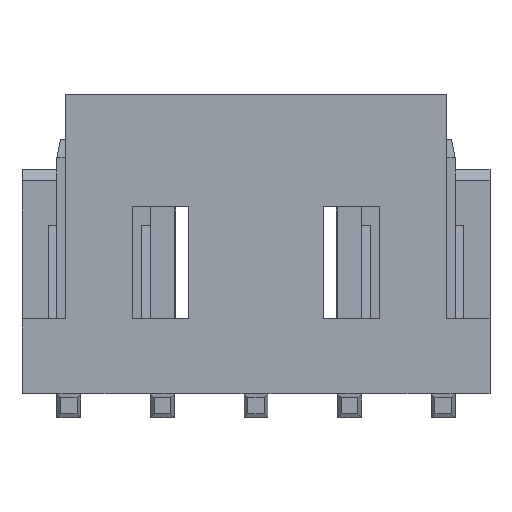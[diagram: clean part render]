
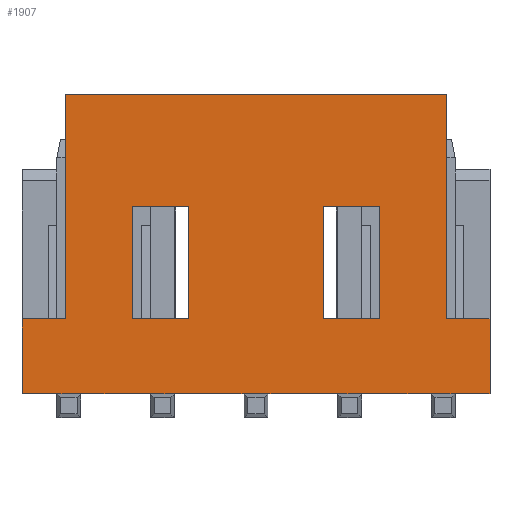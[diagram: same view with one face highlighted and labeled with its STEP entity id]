
A CAD part, front view. The second image highlights one B-rep face of the part: STEP entity #1907.
In plain terms, the highlighted planar face has unit normal (0, -1, 0).
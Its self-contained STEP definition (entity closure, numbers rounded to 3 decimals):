
#137=CARTESIAN_POINT('Line Origine',(-5.,0.,0.)) ;
#141=CARTESIAN_POINT('Vertex',(-5.32,0.,0.)) ;
#143=CARTESIAN_POINT('Vertex',(-4.68,0.,0.)) ;
#617=CARTESIAN_POINT('Vertex',(6.25,0.,2.)) ;
#620=CARTESIAN_POINT('Line Origine',(6.25,0.,1.)) ;
#624=CARTESIAN_POINT('Vertex',(6.25,0.,0.)) ;
#1229=CARTESIAN_POINT('Vertex',(-6.25,0.,0.)) ;
#1232=CARTESIAN_POINT('Line Origine',(-6.25,0.,1.)) ;
#1236=CARTESIAN_POINT('Vertex',(-6.25,0.,2.)) ;
#1707=CARTESIAN_POINT('Vertex',(5.1,0.,2.)) ;
#1710=CARTESIAN_POINT('Line Origine',(5.675,0.,2.)) ;
#1722=CARTESIAN_POINT('Axis2P3D Location',(0.,0.,8.)) ;
#1727=CARTESIAN_POINT('Line Origine',(-5.785,0.,0.)) ;
#1732=CARTESIAN_POINT('Line Origine',(-3.75,0.,0.)) ;
#1736=CARTESIAN_POINT('Vertex',(-2.82,0.,0.)) ;
#1739=CARTESIAN_POINT('Line Origine',(-2.5,0.,0.)) ;
#1743=CARTESIAN_POINT('Vertex',(-2.18,0.,0.)) ;
#1746=CARTESIAN_POINT('Line Origine',(-1.25,0.,0.)) ;
#1750=CARTESIAN_POINT('Vertex',(-0.32,0.,0.)) ;
#1753=CARTESIAN_POINT('Line Origine',(0.,0.,0.)) ;
#1757=CARTESIAN_POINT('Vertex',(0.32,0.,0.)) ;
#1760=CARTESIAN_POINT('Line Origine',(1.25,0.,0.)) ;
#1764=CARTESIAN_POINT('Vertex',(2.18,0.,0.)) ;
#1767=CARTESIAN_POINT('Line Origine',(2.5,0.,0.)) ;
#1771=CARTESIAN_POINT('Vertex',(2.82,0.,0.)) ;
#1774=CARTESIAN_POINT('Line Origine',(3.75,0.,0.)) ;
#1778=CARTESIAN_POINT('Vertex',(4.68,0.,0.)) ;
#1781=CARTESIAN_POINT('Line Origine',(5.,0.,0.)) ;
#1785=CARTESIAN_POINT('Vertex',(5.32,0.,0.)) ;
#1788=CARTESIAN_POINT('Line Origine',(5.785,0.,0.)) ;
#1793=CARTESIAN_POINT('Line Origine',(5.1,0.,5.)) ;
#1797=CARTESIAN_POINT('Vertex',(5.1,0.,8.)) ;
#1800=CARTESIAN_POINT('Line Origine',(0.,0.,8.)) ;
#1804=CARTESIAN_POINT('Vertex',(-5.1,0.,8.)) ;
#1807=CARTESIAN_POINT('Line Origine',(-5.1,0.,5.)) ;
#1811=CARTESIAN_POINT('Vertex',(-5.1,0.,2.)) ;
#1814=CARTESIAN_POINT('Line Origine',(-5.675,0.,2.)) ;
#1839=CARTESIAN_POINT('Line Origine',(-1.8,0.,3.5)) ;
#1843=CARTESIAN_POINT('Vertex',(-1.8,0.,2.)) ;
#1845=CARTESIAN_POINT('Vertex',(-1.8,0.,5.)) ;
#1848=CARTESIAN_POINT('Line Origine',(-2.55,0.,2.)) ;
#1852=CARTESIAN_POINT('Vertex',(-3.3,0.,2.)) ;
#1855=CARTESIAN_POINT('Line Origine',(-3.3,0.,3.5)) ;
#1859=CARTESIAN_POINT('Vertex',(-3.3,0.,5.)) ;
#1862=CARTESIAN_POINT('Line Origine',(-2.55,0.,5.)) ;
#1873=CARTESIAN_POINT('Line Origine',(2.55,0.,2.)) ;
#1877=CARTESIAN_POINT('Vertex',(1.8,0.,2.)) ;
#1879=CARTESIAN_POINT('Vertex',(3.3,0.,2.)) ;
#1882=CARTESIAN_POINT('Line Origine',(1.8,0.,3.5)) ;
#1886=CARTESIAN_POINT('Vertex',(1.8,0.,5.)) ;
#1889=CARTESIAN_POINT('Line Origine',(2.55,0.,5.)) ;
#1893=CARTESIAN_POINT('Vertex',(3.3,0.,5.)) ;
#1896=CARTESIAN_POINT('Line Origine',(3.3,0.,3.5)) ;
#138=DIRECTION('Vector Direction',(1.,0.,0.)) ;
#621=DIRECTION('Vector Direction',(0.,0.,-1.)) ;
#1233=DIRECTION('Vector Direction',(0.,0.,-1.)) ;
#1711=DIRECTION('Vector Direction',(1.,0.,0.)) ;
#1723=DIRECTION('Axis2P3D Direction',(0.,-1.,0.)) ;
#1724=DIRECTION('Axis2P3D XDirection',(0.,0.,-1.)) ;
#1728=DIRECTION('Vector Direction',(1.,0.,0.)) ;
#1733=DIRECTION('Vector Direction',(1.,0.,0.)) ;
#1740=DIRECTION('Vector Direction',(1.,0.,0.)) ;
#1747=DIRECTION('Vector Direction',(1.,0.,0.)) ;
#1754=DIRECTION('Vector Direction',(1.,0.,0.)) ;
#1761=DIRECTION('Vector Direction',(1.,0.,0.)) ;
#1768=DIRECTION('Vector Direction',(1.,0.,0.)) ;
#1775=DIRECTION('Vector Direction',(1.,0.,0.)) ;
#1782=DIRECTION('Vector Direction',(1.,0.,0.)) ;
#1789=DIRECTION('Vector Direction',(1.,0.,0.)) ;
#1794=DIRECTION('Vector Direction',(0.,0.,1.)) ;
#1801=DIRECTION('Vector Direction',(1.,0.,0.)) ;
#1808=DIRECTION('Vector Direction',(0.,0.,1.)) ;
#1815=DIRECTION('Vector Direction',(-1.,0.,0.)) ;
#1840=DIRECTION('Vector Direction',(0.,0.,1.)) ;
#1849=DIRECTION('Vector Direction',(-1.,0.,0.)) ;
#1856=DIRECTION('Vector Direction',(0.,0.,-1.)) ;
#1863=DIRECTION('Vector Direction',(1.,0.,0.)) ;
#1874=DIRECTION('Vector Direction',(1.,0.,0.)) ;
#1883=DIRECTION('Vector Direction',(0.,0.,1.)) ;
#1890=DIRECTION('Vector Direction',(-1.,0.,0.)) ;
#1897=DIRECTION('Vector Direction',(0.,0.,-1.)) ;
#1725=AXIS2_PLACEMENT_3D('Plane Axis2P3D',#1722,#1723,#1724) ;
#1820=ORIENTED_EDGE('',*,*,#1238,.T.) ;
#1821=ORIENTED_EDGE('',*,*,#1731,.T.) ;
#1822=ORIENTED_EDGE('',*,*,#145,.T.) ;
#1823=ORIENTED_EDGE('',*,*,#1738,.T.) ;
#1824=ORIENTED_EDGE('',*,*,#1745,.T.) ;
#1825=ORIENTED_EDGE('',*,*,#1752,.T.) ;
#1826=ORIENTED_EDGE('',*,*,#1759,.T.) ;
#1827=ORIENTED_EDGE('',*,*,#1766,.T.) ;
#1828=ORIENTED_EDGE('',*,*,#1773,.T.) ;
#1829=ORIENTED_EDGE('',*,*,#1780,.T.) ;
#1830=ORIENTED_EDGE('',*,*,#1787,.T.) ;
#1831=ORIENTED_EDGE('',*,*,#1792,.T.) ;
#1832=ORIENTED_EDGE('',*,*,#626,.F.) ;
#1833=ORIENTED_EDGE('',*,*,#1714,.F.) ;
#1834=ORIENTED_EDGE('',*,*,#1799,.T.) ;
#1835=ORIENTED_EDGE('',*,*,#1806,.F.) ;
#1836=ORIENTED_EDGE('',*,*,#1813,.F.) ;
#1837=ORIENTED_EDGE('',*,*,#1818,.F.) ;
#1868=ORIENTED_EDGE('',*,*,#1847,.F.) ;
#1869=ORIENTED_EDGE('',*,*,#1854,.F.) ;
#1870=ORIENTED_EDGE('',*,*,#1861,.F.) ;
#1871=ORIENTED_EDGE('',*,*,#1866,.F.) ;
#1902=ORIENTED_EDGE('',*,*,#1881,.F.) ;
#1903=ORIENTED_EDGE('',*,*,#1888,.F.) ;
#1904=ORIENTED_EDGE('',*,*,#1895,.F.) ;
#1905=ORIENTED_EDGE('',*,*,#1900,.F.) ;
#1872=FACE_BOUND('',#1867,.T.) ;
#1906=FACE_BOUND('',#1901,.T.) ;
#139=VECTOR('Line Direction',#138,1.) ;
#622=VECTOR('Line Direction',#621,1.) ;
#1234=VECTOR('Line Direction',#1233,1.) ;
#1712=VECTOR('Line Direction',#1711,1.) ;
#1729=VECTOR('Line Direction',#1728,1.) ;
#1734=VECTOR('Line Direction',#1733,1.) ;
#1741=VECTOR('Line Direction',#1740,1.) ;
#1748=VECTOR('Line Direction',#1747,1.) ;
#1755=VECTOR('Line Direction',#1754,1.) ;
#1762=VECTOR('Line Direction',#1761,1.) ;
#1769=VECTOR('Line Direction',#1768,1.) ;
#1776=VECTOR('Line Direction',#1775,1.) ;
#1783=VECTOR('Line Direction',#1782,1.) ;
#1790=VECTOR('Line Direction',#1789,1.) ;
#1795=VECTOR('Line Direction',#1794,1.) ;
#1802=VECTOR('Line Direction',#1801,1.) ;
#1809=VECTOR('Line Direction',#1808,1.) ;
#1816=VECTOR('Line Direction',#1815,1.) ;
#1841=VECTOR('Line Direction',#1840,1.) ;
#1850=VECTOR('Line Direction',#1849,1.) ;
#1857=VECTOR('Line Direction',#1856,1.) ;
#1864=VECTOR('Line Direction',#1863,1.) ;
#1875=VECTOR('Line Direction',#1874,1.) ;
#1884=VECTOR('Line Direction',#1883,1.) ;
#1891=VECTOR('Line Direction',#1890,1.) ;
#1898=VECTOR('Line Direction',#1897,1.) ;
#1907=ADVANCED_FACE('\X2\96F64EF651E04F554F53\X0\',(#1838,#1872,#1906),#1726,.T.) ;
#145=EDGE_CURVE('',#142,#144,#140,.T.) ;
#626=EDGE_CURVE('',#618,#625,#623,.T.) ;
#1238=EDGE_CURVE('',#1237,#1230,#1235,.T.) ;
#1714=EDGE_CURVE('',#1708,#618,#1713,.T.) ;
#1731=EDGE_CURVE('',#1230,#142,#1730,.T.) ;
#1738=EDGE_CURVE('',#144,#1737,#1735,.T.) ;
#1745=EDGE_CURVE('',#1737,#1744,#1742,.T.) ;
#1752=EDGE_CURVE('',#1744,#1751,#1749,.T.) ;
#1759=EDGE_CURVE('',#1751,#1758,#1756,.T.) ;
#1766=EDGE_CURVE('',#1758,#1765,#1763,.T.) ;
#1773=EDGE_CURVE('',#1765,#1772,#1770,.T.) ;
#1780=EDGE_CURVE('',#1772,#1779,#1777,.T.) ;
#1787=EDGE_CURVE('',#1779,#1786,#1784,.T.) ;
#1792=EDGE_CURVE('',#1786,#625,#1791,.T.) ;
#1799=EDGE_CURVE('',#1708,#1798,#1796,.T.) ;
#1806=EDGE_CURVE('',#1805,#1798,#1803,.T.) ;
#1813=EDGE_CURVE('',#1812,#1805,#1810,.T.) ;
#1818=EDGE_CURVE('',#1237,#1812,#1817,.F.) ;
#1847=EDGE_CURVE('',#1844,#1846,#1842,.T.) ;
#1854=EDGE_CURVE('',#1853,#1844,#1851,.F.) ;
#1861=EDGE_CURVE('',#1860,#1853,#1858,.T.) ;
#1866=EDGE_CURVE('',#1846,#1860,#1865,.F.) ;
#1881=EDGE_CURVE('',#1878,#1880,#1876,.T.) ;
#1888=EDGE_CURVE('',#1887,#1878,#1885,.F.) ;
#1895=EDGE_CURVE('',#1894,#1887,#1892,.T.) ;
#1900=EDGE_CURVE('',#1880,#1894,#1899,.F.) ;
#1819=EDGE_LOOP('',(#1820,#1821,#1822,#1823,#1824,#1825,#1826,#1827,#1828,#1829,#1830,#1831,#1832,#1833,#1834,#1835,#1836,#1837)) ;
#1867=EDGE_LOOP('',(#1868,#1869,#1870,#1871)) ;
#1901=EDGE_LOOP('',(#1902,#1903,#1904,#1905)) ;
#1838=FACE_OUTER_BOUND('',#1819,.T.) ;
#140=LINE('Line',#137,#139) ;
#623=LINE('Line',#620,#622) ;
#1235=LINE('Line',#1232,#1234) ;
#1713=LINE('Line',#1710,#1712) ;
#1730=LINE('Line',#1727,#1729) ;
#1735=LINE('Line',#1732,#1734) ;
#1742=LINE('Line',#1739,#1741) ;
#1749=LINE('Line',#1746,#1748) ;
#1756=LINE('Line',#1753,#1755) ;
#1763=LINE('Line',#1760,#1762) ;
#1770=LINE('Line',#1767,#1769) ;
#1777=LINE('Line',#1774,#1776) ;
#1784=LINE('Line',#1781,#1783) ;
#1791=LINE('Line',#1788,#1790) ;
#1796=LINE('Line',#1793,#1795) ;
#1803=LINE('Line',#1800,#1802) ;
#1810=LINE('Line',#1807,#1809) ;
#1817=LINE('Line',#1814,#1816) ;
#1842=LINE('Line',#1839,#1841) ;
#1851=LINE('Line',#1848,#1850) ;
#1858=LINE('Line',#1855,#1857) ;
#1865=LINE('Line',#1862,#1864) ;
#1876=LINE('Line',#1873,#1875) ;
#1885=LINE('Line',#1882,#1884) ;
#1892=LINE('Line',#1889,#1891) ;
#1899=LINE('Line',#1896,#1898) ;
#1726=PLANE('Plane',#1725) ;
#142=VERTEX_POINT('',#141) ;
#144=VERTEX_POINT('',#143) ;
#618=VERTEX_POINT('',#617) ;
#625=VERTEX_POINT('',#624) ;
#1230=VERTEX_POINT('',#1229) ;
#1237=VERTEX_POINT('',#1236) ;
#1708=VERTEX_POINT('',#1707) ;
#1737=VERTEX_POINT('',#1736) ;
#1744=VERTEX_POINT('',#1743) ;
#1751=VERTEX_POINT('',#1750) ;
#1758=VERTEX_POINT('',#1757) ;
#1765=VERTEX_POINT('',#1764) ;
#1772=VERTEX_POINT('',#1771) ;
#1779=VERTEX_POINT('',#1778) ;
#1786=VERTEX_POINT('',#1785) ;
#1798=VERTEX_POINT('',#1797) ;
#1805=VERTEX_POINT('',#1804) ;
#1812=VERTEX_POINT('',#1811) ;
#1844=VERTEX_POINT('',#1843) ;
#1846=VERTEX_POINT('',#1845) ;
#1853=VERTEX_POINT('',#1852) ;
#1860=VERTEX_POINT('',#1859) ;
#1878=VERTEX_POINT('',#1877) ;
#1880=VERTEX_POINT('',#1879) ;
#1887=VERTEX_POINT('',#1886) ;
#1894=VERTEX_POINT('',#1893) ;
